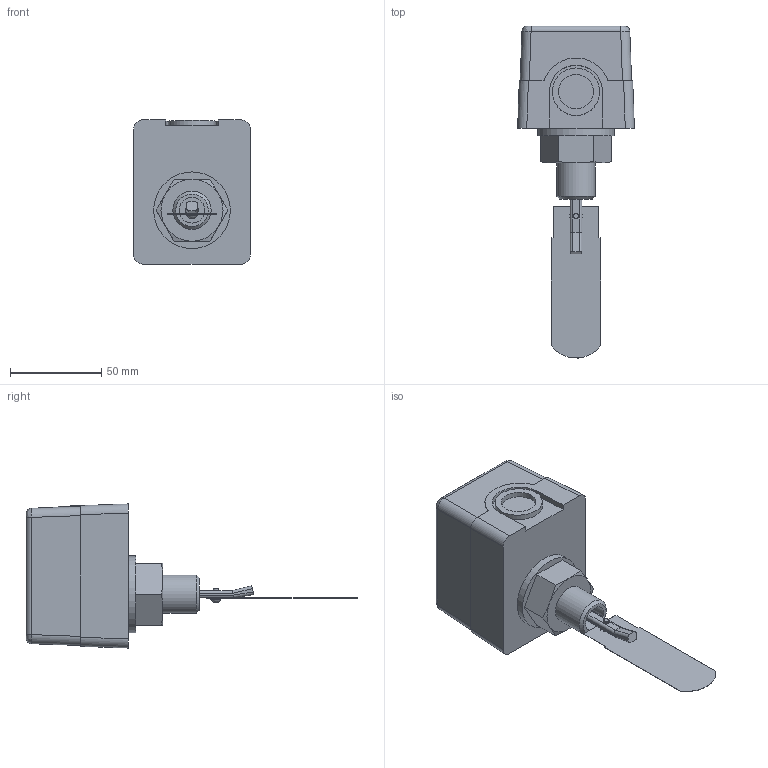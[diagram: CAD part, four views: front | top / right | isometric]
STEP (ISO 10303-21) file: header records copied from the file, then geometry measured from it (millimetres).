
FILE_DESCRIPTION(/* description */ ('РП-1-R1/2 Лопасть 83'),/* implementation_level */ '2;1');
FILE_NAME(/* name */ 'D:\STEP\РП\РП-1-R1_2 Лопасть 83.stp',/* time_stamp */ '2023-05-10T12:47:15+03:00',/* author */ ('Tech'),/* organization */ (''),/* preprocessor_version */ 'ST-DEVELOPER v18.1',/* originating_system */ 'Autodesk Inventor 2021',/* authorisation */ '');
FILE_SCHEMA (('AUTOMOTIVE_DESIGN { 1 0 10303 214 3 1 1 }'));
Length unit declared in the file: millimetre
Products named in the file (1): РП-1-R1/2 Лопасть 
83
Bounding box: 64 x 181.94 x 79 mm (x, y, z)
Volume: 283518.6 mm3; surface area: 35837 mm2
Topology: 4 solids, 4 shells, 197 faces, 507 edges, 338 vertices
Faces by surface type: plane 117, cylinder 65, cone 9, bspline 4, torus 1, sphere 1
Full cylindrical faces by diameter (mm): 2.584 x1, 3 x2, 3.2 x1, 4.5 x1, 5.115 x1, 5.5 x1, 7 x1, 14 x1, 19 x1, 20.955 x1, 26 x1, 42 x1
Entity records: 6214 total; most frequent: CARTESIAN_POINT 1198, DIRECTION 1050, ORIENTED_EDGE 1012, EDGE_CURVE 506, AXIS2_PLACEMENT_3D 370, VERTEX_POINT 338, LINE 310, VECTOR 310
